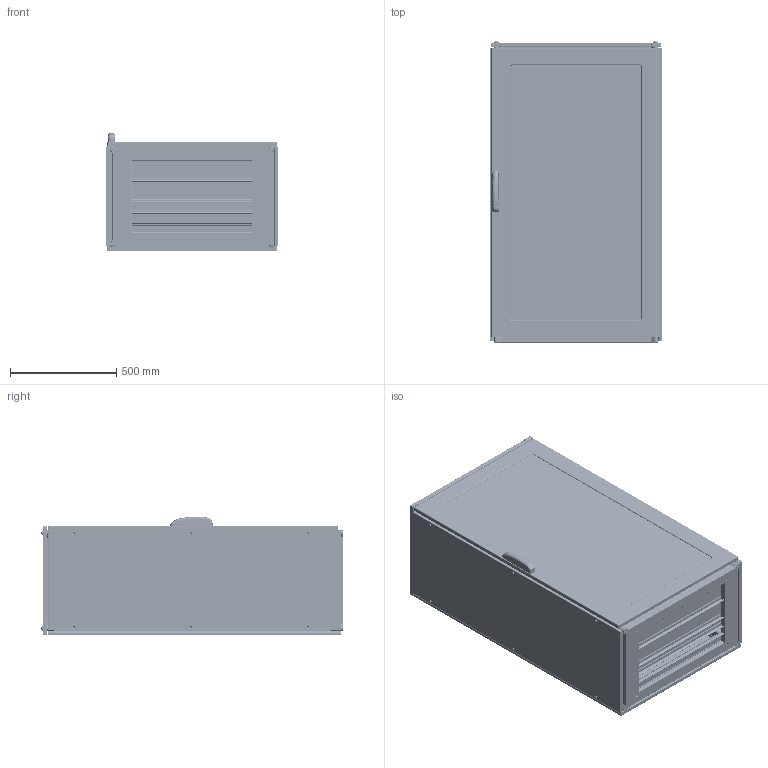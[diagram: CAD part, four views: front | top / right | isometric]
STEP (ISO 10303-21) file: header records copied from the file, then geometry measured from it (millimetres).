
FILE_DESCRIPTION (( 'STEP AP203' ), '1' );
FILE_NAME ('ENUX081405PV.STEP', '2025-05-29T08:30:33', ( '' ), ( '' ), 'SwSTEP 2.0', 'SolidWorks 2022', '' );
FILE_SCHEMA (( 'CONFIG_CONTROL_DESIGN' ));
Products named in the file (13): AR_ENUX_montaggio_porta_singlola_plexi_0800x1400_ANT_DX; AR_ENUX_Tegolino_0800x0050; AR_ENUX_Fianco_0500x1400_SX; AR_ENUX_Plexiglass_porte_0800x1400; AR_ENUX_Tegolino_0800x0100; AR_ENUX_Retro_singolo_0800x1400; AR_ENUX_nuova_maniglia_mesan; AR_ENUX_Struttura_0800x1400x0500; ENUX081405PV; AR_ENUX_Porta_singola_plexi_0800x1400_ANT; AR_ENUX_Vite_tetto; AR_ENUX_Fianco_0500x1400_DX; AR_ENUX_Tetto_0800x0500
Assembly tree (17 placements, depth 3):
  ENUX081405PV
    AR_ENUX_Struttura_0800x1400x0500
    AR_ENUX_Retro_singolo_0800x1400
    AR_ENUX_Fianco_0500x1400_SX
    AR_ENUX_Fianco_0500x1400_DX
    AR_ENUX_Tetto_0800x0500
    AR_ENUX_Vite_tetto  x4
    AR_ENUX_montaggio_porta_singlola_plexi_0800x1400_ANT_DX
      AR_ENUX_Porta_singola_plexi_0800x1400_ANT
      AR_ENUX_Plexiglass_porte_0800x1400
      AR_ENUX_nuova_maniglia_mesan
    AR_ENUX_Tegolino_0800x0100  x2
    AR_ENUX_Tegolino_0800x0050  x2
Bounding box: 812 x 1415.1 x 557 mm (x, y, z)
Volume: 11542296.5 mm3; surface area: 14406524.6 mm2
Topology: 16 solids, 16 shells, 7431 faces, 20841 edges, 13348 vertices
Faces by surface type: plane 3920, cylinder 2651, bspline 365, torus 259, cone 168, sphere 68
Entity records: 277376 total; most frequent: CARTESIAN_POINT 81952, ORIENTED_EDGE 40548, DIRECTION 38601, EDGE_CURVE 20274, VECTOR 13685, LINE 13685, VERTEX_POINT 13110, AXIS2_PLACEMENT_3D 12458
